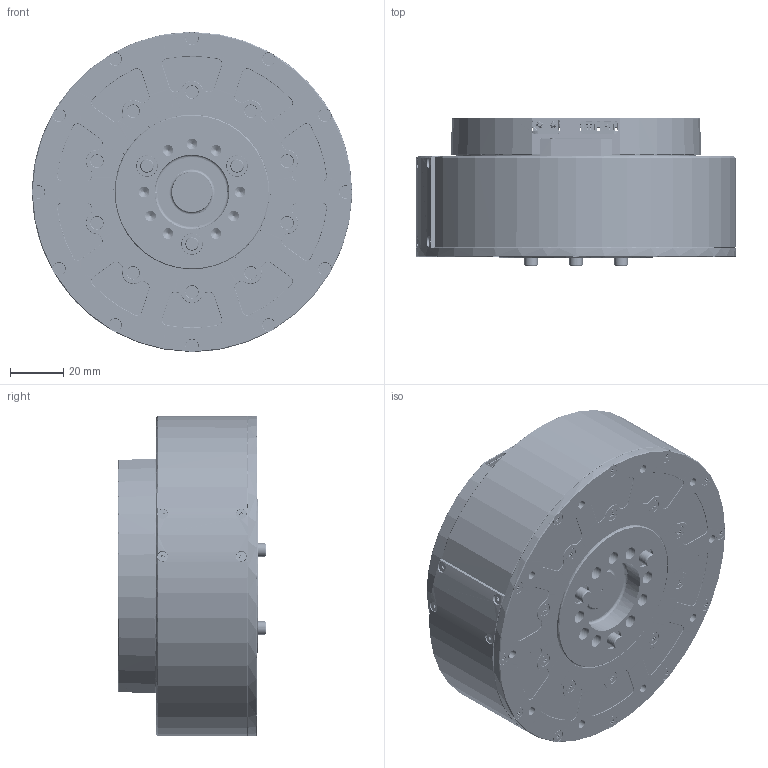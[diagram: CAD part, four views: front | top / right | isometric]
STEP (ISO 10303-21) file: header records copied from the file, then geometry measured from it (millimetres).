
FILE_DESCRIPTION (( 'STEP AP203' ), '1' );
FILE_NAME ('dm-j10010l-0730_1.STEP', '2024-07-30T02:16:47', ( '' ), ( '' ), 'SwSTEP 2.0', 'SolidWorks 2022', '' );
FILE_SCHEMA (( 'CONFIG_CONTROL_DESIGN' ));
Length unit declared in the file: millimetre
Products named in the file (5): dm-j10010l-0730_1; PCB_1.stp; dm-j10010l-0730_1.stp; HOUGAI.stp; ZHUTI.stp
Assembly tree (4 placements, depth 3):
  dm-j10010l-0730_1
    dm-j10010l-0730_1.stp
      ZHUTI.stp
      PCB_1.stp
      HOUGAI.stp
Bounding box: 120 x 55.7 x 120 mm (x, y, z)
Volume: 24237.5 mm3; surface area: 100673.3 mm2
Topology: 1 solids, 65 shells, 6903 faces, 19366 edges, 12840 vertices
Faces by surface type: plane 3459, cylinder 1839, bspline 710, cone 594, torus 288, sphere 13
Entity records: 273687 total; most frequent: CARTESIAN_POINT 109170, ORIENTED_EDGE 38519, DIRECTION 27072, EDGE_CURVE 19300, VERTEX_POINT 12840, LINE 9338, VECTOR 9338, AXIS2_PLACEMENT_3D 8867
